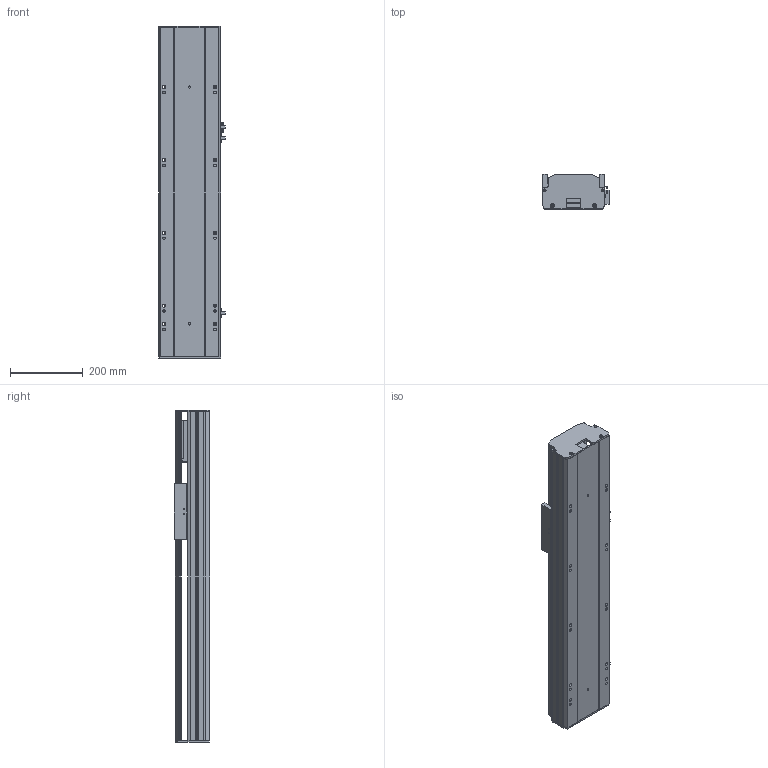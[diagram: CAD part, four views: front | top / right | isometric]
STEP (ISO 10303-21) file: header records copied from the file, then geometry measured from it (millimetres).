
FILE_DESCRIPTION (( 'STEP AP203' ), '1' );
FILE_NAME ('Y170-D10-S500-M-P400W.STEP', '2020-01-22T12:40:33', ( '微软用户' ), ( '微软中国' ), 'SwSTEP 2.0', 'SolidWorks 2017', '' );
FILE_SCHEMA (( 'CONFIG_CONTROL_DESIGN' ));
Length unit declared in the file: millimetre
Products named in the file (10): Y170耜裔--準---M; san松下电机400不带刹车----; Y170-陔遴奻裔-M; YD-Y100-135-新外置传感挡片(通用）; Y170-D10-S500-M-P400W; Y100-135俋离換覜ん; 135-盓傅釱-FK15; Y170耜裔--準---; Y170--雄赽釱-梓--; 170--掛极-M
Assembly tree (11 placements, depth 2):
  Y170-D10-S500-M-P400W
    YD-Y100-135-新外置传感挡片(通用）
    Y100-135俋离換覜ん  x3
    135-盓傅釱-FK15
    Y170耜裔--準---
    Y170--雄赽釱-梓--
    170--掛极-M
    Y170耜裔--準---M
    san松下电机400不带刹车----
    Y170-陔遴奻裔-M
Bounding box: 183.5 x 97 x 911 mm (x, y, z)
Volume: 4180690.5 mm3; surface area: 1447181.3 mm2
Topology: 11 solids, 11 shells, 775 faces, 2176 edges, 1440 vertices
Faces by surface type: cylinder 387, plane 386, torus 2
Entity records: 24820 total; most frequent: CARTESIAN_POINT 4323, DIRECTION 4154, ORIENTED_EDGE 4016, EDGE_CURVE 2008, AXIS2_PLACEMENT_3D 1471, VERTEX_POINT 1328, LINE 1212, VECTOR 1212
